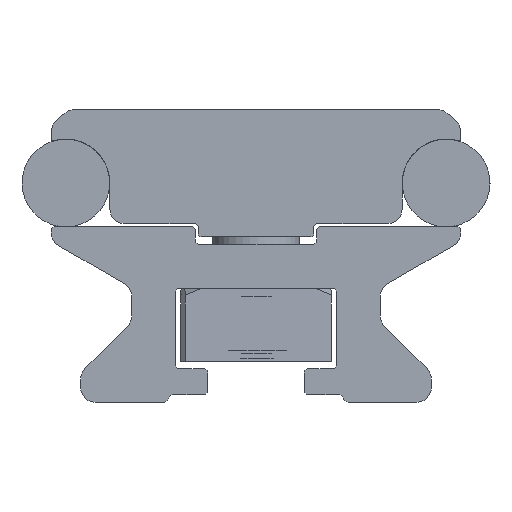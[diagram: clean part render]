
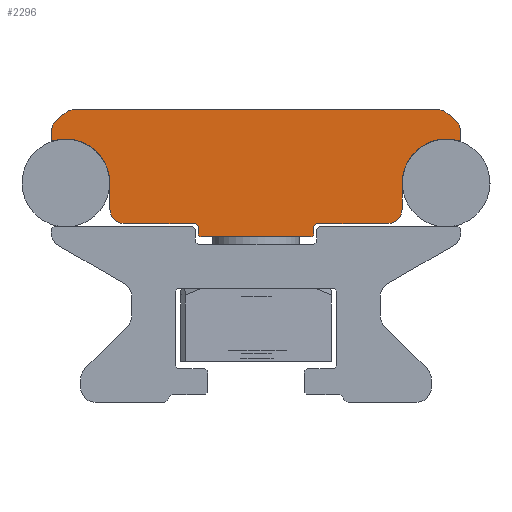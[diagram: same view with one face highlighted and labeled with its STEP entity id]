
A CAD part, left-side view. The second image highlights one B-rep face of the part: STEP entity #2296.
In plain terms, the highlighted planar face has unit normal (-1, 0, 0).
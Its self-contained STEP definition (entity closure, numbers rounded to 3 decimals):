
#89=CIRCLE('',#2463,3.011);
#91=CIRCLE('',#2466,0.1);
#93=CIRCLE('',#2470,1.);
#95=CIRCLE('',#2474,1.);
#102=CIRCLE('',#2483,1.);
#104=CIRCLE('',#2487,1.);
#106=CIRCLE('',#2491,0.1);
#108=CIRCLE('',#2494,3.011);
#110=CIRCLE('',#2498,1.);
#112=CIRCLE('',#2502,0.2);
#114=CIRCLE('',#2506,0.2);
#121=CIRCLE('',#2515,0.2);
#123=CIRCLE('',#2519,0.2);
#125=CIRCLE('',#2523,1.);
#405=ORIENTED_EDGE('',*,*,#905,.F.);
#406=ORIENTED_EDGE('',*,*,#991,.F.);
#407=ORIENTED_EDGE('',*,*,#988,.F.);
#408=ORIENTED_EDGE('',*,*,#985,.F.);
#409=ORIENTED_EDGE('',*,*,#982,.F.);
#410=ORIENTED_EDGE('',*,*,#979,.F.);
#411=ORIENTED_EDGE('',*,*,#976,.F.);
#412=ORIENTED_EDGE('',*,*,#968,.F.);
#413=ORIENTED_EDGE('',*,*,#965,.F.);
#414=ORIENTED_EDGE('',*,*,#962,.F.);
#415=ORIENTED_EDGE('',*,*,#959,.F.);
#416=ORIENTED_EDGE('',*,*,#956,.F.);
#417=ORIENTED_EDGE('',*,*,#953,.F.);
#418=ORIENTED_EDGE('',*,*,#950,.F.);
#419=ORIENTED_EDGE('',*,*,#947,.F.);
#420=ORIENTED_EDGE('',*,*,#944,.F.);
#421=ORIENTED_EDGE('',*,*,#941,.F.);
#422=ORIENTED_EDGE('',*,*,#938,.F.);
#423=ORIENTED_EDGE('',*,*,#935,.F.);
#424=ORIENTED_EDGE('',*,*,#932,.F.);
#425=ORIENTED_EDGE('',*,*,#924,.F.);
#426=ORIENTED_EDGE('',*,*,#921,.F.);
#427=ORIENTED_EDGE('',*,*,#918,.F.);
#428=ORIENTED_EDGE('',*,*,#915,.F.);
#429=ORIENTED_EDGE('',*,*,#912,.F.);
#430=ORIENTED_EDGE('',*,*,#909,.F.);
#905=EDGE_CURVE('',#1225,#1226,#1450,.T.);
#909=EDGE_CURVE('',#1226,#1229,#89,.T.);
#912=EDGE_CURVE('',#1229,#1231,#91,.T.);
#915=EDGE_CURVE('',#1231,#1233,#1456,.T.);
#918=EDGE_CURVE('',#1233,#1235,#93,.T.);
#921=EDGE_CURVE('',#1235,#1237,#1460,.T.);
#924=EDGE_CURVE('',#1237,#1239,#95,.T.);
#932=EDGE_CURVE('',#1239,#1246,#1464,.T.);
#935=EDGE_CURVE('',#1246,#1248,#102,.T.);
#938=EDGE_CURVE('',#1248,#1250,#1468,.T.);
#941=EDGE_CURVE('',#1250,#1252,#104,.T.);
#944=EDGE_CURVE('',#1252,#1254,#1472,.T.);
#947=EDGE_CURVE('',#1254,#1256,#106,.T.);
#950=EDGE_CURVE('',#1256,#1258,#108,.T.);
#953=EDGE_CURVE('',#1258,#1260,#1477,.T.);
#956=EDGE_CURVE('',#1260,#1262,#110,.T.);
#959=EDGE_CURVE('',#1262,#1264,#1481,.T.);
#962=EDGE_CURVE('',#1264,#1266,#112,.T.);
#965=EDGE_CURVE('',#1266,#1268,#1485,.T.);
#968=EDGE_CURVE('',#1268,#1270,#114,.T.);
#976=EDGE_CURVE('',#1270,#1277,#1489,.T.);
#979=EDGE_CURVE('',#1277,#1279,#121,.T.);
#982=EDGE_CURVE('',#1279,#1281,#1493,.T.);
#985=EDGE_CURVE('',#1281,#1283,#123,.T.);
#988=EDGE_CURVE('',#1283,#1285,#1497,.T.);
#991=EDGE_CURVE('',#1285,#1225,#125,.T.);
#1225=VERTEX_POINT('',#3465);
#1226=VERTEX_POINT('',#3466);
#1229=VERTEX_POINT('',#3474);
#1231=VERTEX_POINT('',#3480);
#1233=VERTEX_POINT('',#3486);
#1235=VERTEX_POINT('',#3492);
#1237=VERTEX_POINT('',#3498);
#1239=VERTEX_POINT('',#3504);
#1246=VERTEX_POINT('',#3520);
#1248=VERTEX_POINT('',#3526);
#1250=VERTEX_POINT('',#3532);
#1252=VERTEX_POINT('',#3538);
#1254=VERTEX_POINT('',#3544);
#1256=VERTEX_POINT('',#3550);
#1258=VERTEX_POINT('',#3556);
#1260=VERTEX_POINT('',#3562);
#1262=VERTEX_POINT('',#3568);
#1264=VERTEX_POINT('',#3574);
#1266=VERTEX_POINT('',#3580);
#1268=VERTEX_POINT('',#3586);
#1270=VERTEX_POINT('',#3592);
#1277=VERTEX_POINT('',#3608);
#1279=VERTEX_POINT('',#3614);
#1281=VERTEX_POINT('',#3620);
#1283=VERTEX_POINT('',#3626);
#1285=VERTEX_POINT('',#3632);
#1450=LINE('',#3464,#1651);
#1456=LINE('',#3485,#1657);
#1460=LINE('',#3497,#1661);
#1464=LINE('',#3519,#1665);
#1468=LINE('',#3531,#1669);
#1472=LINE('',#3543,#1673);
#1477=LINE('',#3561,#1678);
#1481=LINE('',#3573,#1682);
#1485=LINE('',#3585,#1686);
#1489=LINE('',#3607,#1690);
#1493=LINE('',#3619,#1694);
#1497=LINE('',#3631,#1698);
#1651=VECTOR('',#2731,1000.);
#1657=VECTOR('',#2751,1000.);
#1661=VECTOR('',#2763,1000.);
#1665=VECTOR('',#2785,1000.);
#1669=VECTOR('',#2797,1000.);
#1673=VECTOR('',#2809,1000.);
#1678=VECTOR('',#2828,1000.);
#1682=VECTOR('',#2840,1000.);
#1686=VECTOR('',#2852,1000.);
#1690=VECTOR('',#2874,1000.);
#1694=VECTOR('',#2886,1000.);
#1698=VECTOR('',#2898,1000.);
#1889=EDGE_LOOP('',(#405,#406,#407,#408,#409,#410,#411,#412,#413,#414,#415,
#416,#417,#418,#419,#420,#421,#422,#423,#424,#425,#426,#427,#428,#429,#430));
#2062=FACE_BOUND('',#1889,.T.);
#2211=PLANE('',#2526);
#2296=ADVANCED_FACE('',(#2062),#2211,.T.);
#2463=AXIS2_PLACEMENT_3D('',#3473,#2737,#2738);
#2466=AXIS2_PLACEMENT_3D('',#3479,#2744,#2745);
#2470=AXIS2_PLACEMENT_3D('',#3491,#2756,#2757);
#2474=AXIS2_PLACEMENT_3D('',#3503,#2768,#2769);
#2483=AXIS2_PLACEMENT_3D('',#3525,#2790,#2791);
#2487=AXIS2_PLACEMENT_3D('',#3537,#2802,#2803);
#2491=AXIS2_PLACEMENT_3D('',#3549,#2814,#2815);
#2494=AXIS2_PLACEMENT_3D('',#3555,#2821,#2822);
#2498=AXIS2_PLACEMENT_3D('',#3567,#2833,#2834);
#2502=AXIS2_PLACEMENT_3D('',#3579,#2845,#2846);
#2506=AXIS2_PLACEMENT_3D('',#3591,#2857,#2858);
#2515=AXIS2_PLACEMENT_3D('',#3613,#2879,#2880);
#2519=AXIS2_PLACEMENT_3D('',#3625,#2891,#2892);
#2523=AXIS2_PLACEMENT_3D('',#3637,#2903,#2904);
#2526=AXIS2_PLACEMENT_3D('',#3640,#2909,#2910);
#2731=DIRECTION('',(0.,0.,1.));
#2737=DIRECTION('',(-1.,0.,0.));
#2738=DIRECTION('',(0.,1.,0.));
#2744=DIRECTION('',(1.,0.,0.));
#2745=DIRECTION('',(0.,-1.,0.));
#2751=DIRECTION('',(0.,0.,1.));
#2756=DIRECTION('',(1.,0.,0.));
#2757=DIRECTION('',(0.,1.,0.));
#2763=DIRECTION('',(0.,-0.766,0.643));
#2768=DIRECTION('',(1.,0.,0.));
#2769=DIRECTION('',(0.,1.,0.));
#2785=DIRECTION('',(0.,-1.,0.));
#2790=DIRECTION('',(1.,0.,0.));
#2791=DIRECTION('',(0.,1.,0.));
#2797=DIRECTION('',(0.,-0.766,-0.643));
#2802=DIRECTION('',(1.,0.,0.));
#2803=DIRECTION('',(0.,1.,0.));
#2809=DIRECTION('',(0.,0.,-1.));
#2814=DIRECTION('',(1.,0.,0.));
#2815=DIRECTION('',(0.,1.,0.));
#2821=DIRECTION('',(-1.,0.,0.));
#2822=DIRECTION('',(0.,1.,0.));
#2828=DIRECTION('',(0.,0.,-1.));
#2833=DIRECTION('',(1.,0.,0.));
#2834=DIRECTION('',(0.,1.,0.));
#2840=DIRECTION('',(0.,1.,0.));
#2845=DIRECTION('',(-1.,0.,0.));
#2846=DIRECTION('',(0.,-1.,0.));
#2852=DIRECTION('',(0.,0.,-1.));
#2857=DIRECTION('',(1.,0.,0.));
#2858=DIRECTION('',(0.,1.,0.));
#2874=DIRECTION('',(0.,1.,0.));
#2879=DIRECTION('',(1.,0.,0.));
#2880=DIRECTION('',(0.,-1.,0.));
#2886=DIRECTION('',(0.,0.,1.));
#2891=DIRECTION('',(-1.,0.,0.));
#2892=DIRECTION('',(0.,1.,0.));
#2898=DIRECTION('',(0.,1.,0.));
#2903=DIRECTION('',(1.,0.,0.));
#2904=DIRECTION('',(0.,-1.,0.));
#2909=DIRECTION('',(-1.,0.,0.));
#2910=DIRECTION('',(0.,-1.,0.));
#3464=CARTESIAN_POINT('',(-207.2,2405.317,2043.28));
#3465=CARTESIAN_POINT('',(-207.2,2405.317,2043.28));
#3466=CARTESIAN_POINT('',(-207.2,2405.317,2045.071));
#3473=CARTESIAN_POINT('',(-207.2,2408.327,2045.066));
#3474=CARTESIAN_POINT('',(-207.2,2409.188,2047.951));
#3479=CARTESIAN_POINT('',(-207.2,2409.217,2048.047));
#3480=CARTESIAN_POINT('',(-207.2,2409.317,2048.047));
#3485=CARTESIAN_POINT('',(-207.2,2409.317,2048.047));
#3486=CARTESIAN_POINT('',(-207.2,2409.317,2048.604));
#3491=CARTESIAN_POINT('',(-207.2,2408.317,2048.604));
#3492=CARTESIAN_POINT('',(-207.2,2408.96,2049.37));
#3497=CARTESIAN_POINT('',(-207.2,2408.96,2049.37));
#3498=CARTESIAN_POINT('',(-207.2,2408.392,2049.846));
#3503=CARTESIAN_POINT('',(-207.2,2407.749,2049.08));
#3504=CARTESIAN_POINT('',(-207.2,2407.749,2050.08));
#3519=CARTESIAN_POINT('',(-207.2,2407.749,2050.08));
#3520=CARTESIAN_POINT('',(-207.2,2382.885,2050.08));
#3525=CARTESIAN_POINT('',(-207.2,2382.885,2049.08));
#3526=CARTESIAN_POINT('',(-207.2,2382.242,2049.846));
#3531=CARTESIAN_POINT('',(-207.2,2382.242,2049.846));
#3532=CARTESIAN_POINT('',(-207.2,2381.674,2049.37));
#3537=CARTESIAN_POINT('',(-207.2,2382.317,2048.604));
#3538=CARTESIAN_POINT('',(-207.2,2381.317,2048.604));
#3543=CARTESIAN_POINT('',(-207.2,2381.317,2048.604));
#3544=CARTESIAN_POINT('',(-207.2,2381.317,2048.047));
#3549=CARTESIAN_POINT('',(-207.2,2381.417,2048.047));
#3550=CARTESIAN_POINT('',(-207.2,2381.446,2047.951));
#3555=CARTESIAN_POINT('',(-207.2,2382.306,2045.066));
#3556=CARTESIAN_POINT('',(-207.2,2385.317,2045.08));
#3561=CARTESIAN_POINT('',(-207.2,2385.317,2045.08));
#3562=CARTESIAN_POINT('',(-207.2,2385.317,2043.28));
#3567=CARTESIAN_POINT('',(-207.2,2386.317,2043.28));
#3568=CARTESIAN_POINT('',(-207.2,2386.317,2042.28));
#3573=CARTESIAN_POINT('',(-207.2,2386.317,2042.28));
#3574=CARTESIAN_POINT('',(-207.2,2391.165,2042.28));
#3579=CARTESIAN_POINT('',(-207.2,2391.165,2042.08));
#3580=CARTESIAN_POINT('',(-207.2,2391.365,2042.08));
#3585=CARTESIAN_POINT('',(-207.2,2391.365,2042.08));
#3586=CARTESIAN_POINT('',(-207.2,2391.365,2041.58));
#3591=CARTESIAN_POINT('',(-207.2,2391.565,2041.58));
#3592=CARTESIAN_POINT('',(-207.2,2391.565,2041.38));
#3607=CARTESIAN_POINT('',(-207.2,2395.317,2041.38));
#3608=CARTESIAN_POINT('',(-207.2,2399.069,2041.38));
#3613=CARTESIAN_POINT('',(-207.2,2399.069,2041.58));
#3614=CARTESIAN_POINT('',(-207.2,2399.269,2041.58));
#3619=CARTESIAN_POINT('',(-207.2,2399.269,2041.58));
#3620=CARTESIAN_POINT('',(-207.2,2399.269,2042.08));
#3625=CARTESIAN_POINT('',(-207.2,2399.469,2042.08));
#3626=CARTESIAN_POINT('',(-207.2,2399.469,2042.28));
#3631=CARTESIAN_POINT('',(-207.2,2399.469,2042.28));
#3632=CARTESIAN_POINT('',(-207.2,2404.317,2042.28));
#3637=CARTESIAN_POINT('',(-207.2,2404.317,2043.28));
#3640=CARTESIAN_POINT('',(-207.2,2408.327,2045.066));
